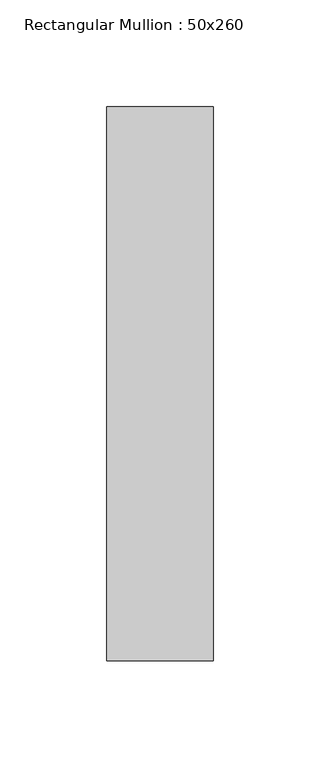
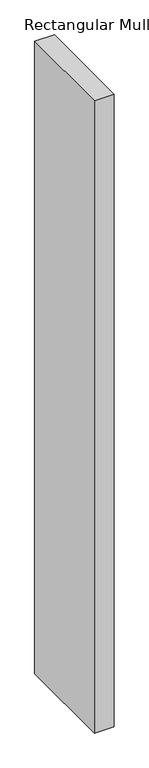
"""IFC4 building model written with IfcOpenShell, lengths in millimetres: member geometry, Rectangular Mullion : 50x260."""

from ifc_helpers import new_model, si_unit, frame, origin, place, context, project, spatial, polyline, outline, extrude, source, transform, mapped, element, save


def rectangular_mullion_50x260_852f20c3(model_context):
    return source(origin(), model_context, "Body", "SweptSolid", [
        extrude(outline(polyline([(0.0, 130.0), (0.0, -130.0), (-50.0, -130.0), (-50.0, 130.0), (0.0, 130.0)])), frame((0.0, 0.0, -1683.9563904), z_axis=(0.0, 0.0, 1.0), x_axis=(1.0, 0.0, 0.0)), (0.0, 0.0, 1.0), 1683.9563904),
    ])


if __name__ == "__main__":
    model = new_model("IFC4")
    model_context = context("Model", 3, world=origin())
    ifc_project = project(units=[si_unit("LENGTHUNIT", "METRE", prefix="MILLI")], contexts=[model_context])
    site = spatial("IfcSite", under=ifc_project)
    building = spatial("IfcBuilding", under=site)
    placement = place(None, origin())
    rectangular_mullion_50x260_shape = rectangular_mullion_50x260_852f20c3(model_context)
    element("IfcMember", 1, ObjectType="Rectangular Mullion : 50x260", at=placement, inside=building, context=model_context, shape_type="MappedRepresentation", body=[
        mapped(rectangular_mullion_50x260_shape, transform((0.0, 0.0, 0.0), x_axis=(1.0, 0.0, 0.0), y_axis=(0.0, 1.0, 0.0), z_axis=(0.0, 0.0, 1.0))),
    ])
    save(model, "model.ifc")
